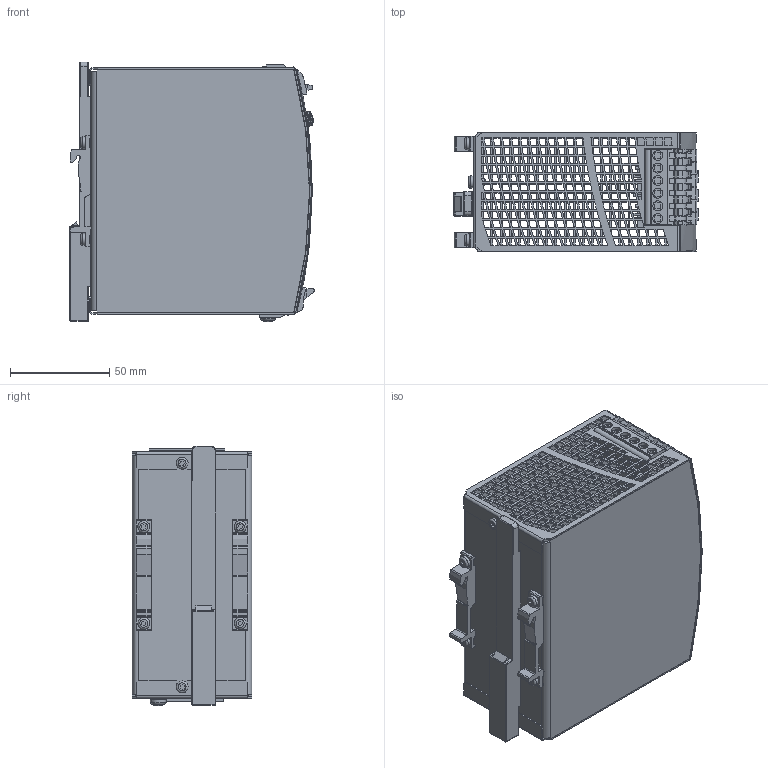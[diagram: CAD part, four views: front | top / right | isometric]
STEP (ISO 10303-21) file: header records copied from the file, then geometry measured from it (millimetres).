
FILE_DESCRIPTION(/* description */ ('','CAx-IF Rec.Pracs.---Representation and Presentation of Product Manufacturing Information (PMI)---3.8---2014-02-18'),/* implementation_level */ '2;1');
FILE_NAME(/* name */ 'L:\MKT-GER\Daten von KO\QS10.241-60 (339.76)\md3_qs10_241-60.stp',/* time_stamp */ '2016-03-31T07:01:42+02:00',/* author */ ('rahns'),/* organization */ (''),/* preprocessor_version */ 'ST-DEVELOPER v16.1',/* originating_system */ 'Autodesk Inventor 2016',/* authorisation */ '');
FILE_SCHEMA (('AP242_MANAGED_MODEL_BASED_3D_ENGINEERING_MIM_LF { 1 0 10303 442 1 1 4 }'));
Products named in the file (14): HOUSING BODY 339.00; HOUSING COVER 339.00; TERMINAL 3P R9,52; TERMINAL 6P R6,35; SCREW 4x8; T HOLDER; SCREW 3x6; SLIDER; POTENTIOMETER COVER; LED GN; LED RD; WASHER 4; FRONTFOIL 339.76; 339.76
Assembly tree (19 placements, depth 2):
  339.76
    HOUSING BODY 339.00
    HOUSING COVER 339.00
    TERMINAL 3P R9,52
    TERMINAL 6P R6,35
    SCREW 4x8
    T HOLDER  x2
    SCREW 3x6  x6
    SLIDER
    POTENTIOMETER COVER
    LED GN
    LED RD
    WASHER 4
    FRONTFOIL 339.76
Bounding box: 122.95 x 60 x 130.77 mm (x, y, z)
Volume: 96518.3 mm3; surface area: 132722 mm2
Topology: 19 solids, 19 shells, 3092 faces, 8836 edges, 5878 vertices
Faces by surface type: plane 2506, cylinder 290, bspline 238, torus 25, cone 20, sphere 13
Full cylindrical faces by diameter (mm): 1.25 x9, 2.45 x2, 3 x6, 3.1 x4, 3.5 x2, 3.621 x1, 4 x1, 4.1 x1, 4.355 x1, 4.5 x1, 4.6 x2, 4.8 x1, 5 x6, 5.5 x3, 6 x6
Entity records: 106140 total; most frequent: CARTESIAN_POINT 27427, ORIENTED_EDGE 16888, DIRECTION 14218, EDGE_CURVE 8444, LINE 7118, VECTOR 7118, VERTEX_POINT 5639, EDGE_LOOP 3979
